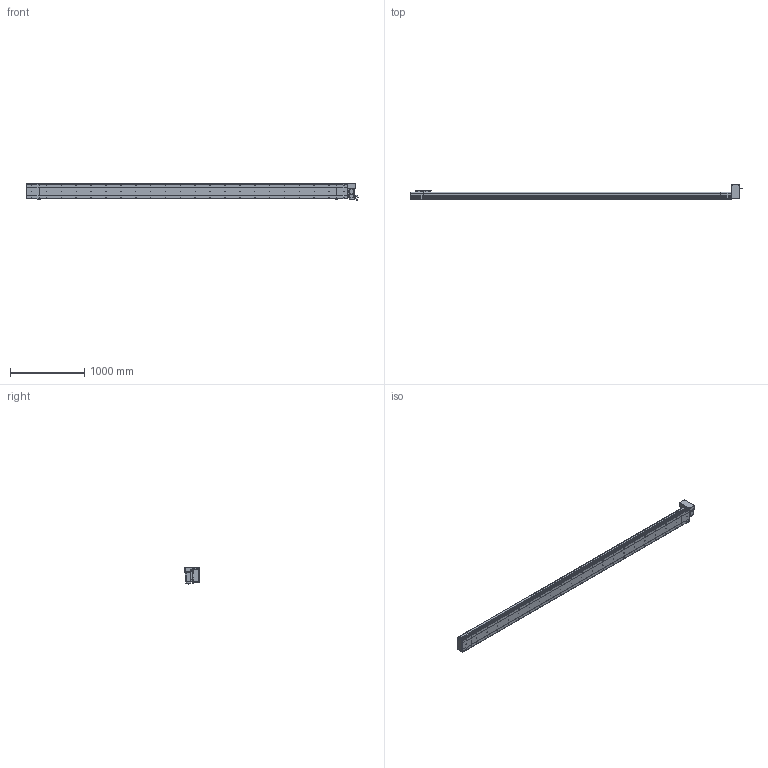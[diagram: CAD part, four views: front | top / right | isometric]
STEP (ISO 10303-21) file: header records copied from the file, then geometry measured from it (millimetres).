
FILE_DESCRIPTION (( 'STEP AP214' ), '1' );
FILE_NAME ('D20 CBH LT S4000.STEP', '2010-06-30T11:20:41', ( 'Conseil Régional Haute-Normandie' ), ( 'Conseil Régional Haute-Normandie' ), 'SwSTEP 2.0', 'SolidWorks 2010', '' );
FILE_SCHEMA (( 'AUTOMOTIVE_DESIGN' ));
Length unit declared in the file: millimetre
Products named in the file (31): Support moteur LT_Default; Support Chariot D20_Default; Chariot D20_Default; Couvercle S4000_Default; Conecteur_Default; Conecteur2_Default; codeur 90BLDC125-640; vis M5 L30_Default; ecrou_Default; Cache Support Moteur LT_Default; corps 90BLDC125A-640; avant 90BLDC125A-640; Moteur motionking 90BLDC125A-640; Corp S4000_Default; Corp D20 S4000_Default; vis M5 L47_Default; vis M5 L15_Default; Tail D20_Default; Plaque de Bout Tail D20_Default; Glissiere_Default; Couvercle_Default; Plaque De Serrage D20_Default; Corp Tail D20_Default; Rondelle Cache D20 LT_Default; Couvercle LT_Default; Head LT_Default; Plaque De Serrage D20 LT_Default; Plaque de Bout Head D20 LT_Default; D20 CBH LT S4000; Corp Tail D20 LT_Default
Assembly tree (66 placements, depth 4):
  D20 CBH LT S4000
    Corp D20 S4000_Default
      Couvercle S4000_Default
      Corp S4000_Default
    Tail D20_Default
      Couvercle_Default
      Plaque De Serrage D20_Default
      Corp Tail D20_Default
      vis M5 L15_Default  x6
      Plaque de Bout Tail D20_Default
    Chariot D20_Default
      vis M5 L15_Default  x8
      Glissiere_Default
      Support Chariot D20_Default
      Chariot D20_Default
    Head LT_Default
      vis M5 L15_Default  x12
      Corp Tail D20 LT_Default
      vis M5 L30_Default  x4
      ecrou_Default  x4
      Moteur motionking 90BLDC125A-640
        avant 90BLDC125A-640
        codeur 90BLDC125-640
        Conecteur2_Default
        corps 90BLDC125A-640
        Conecteur_Default
      Rondelle Cache D20 LT_Default  x3
      vis M5 L47_Default  x4
      Support moteur LT_Default
      Couvercle LT_Default
      Plaque de Bout Head D20 LT_Default
      Plaque De Serrage D20 LT_Default
      Cache Support Moteur LT_Default
Bounding box: 4463.45 x 202.5 x 229.7 mm (x, y, z)
Volume: 29482460.3 mm3; surface area: 5631297.3 mm2
Topology: 103 solids, 103 shells, 3873 faces, 9656 edges, 6280 vertices
Faces by surface type: plane 2128, bspline 806, cylinder 776, torus 91, cone 68, sphere 4
Entity records: 163270 total; most frequent: CARTESIAN_POINT 83653, ORIENTED_EDGE 15780, DIRECTION 12144, EDGE_CURVE 7890, VERTEX_POINT 5224, LINE 5006, VECTOR 5006, AXIS2_PLACEMENT_3D 3569
